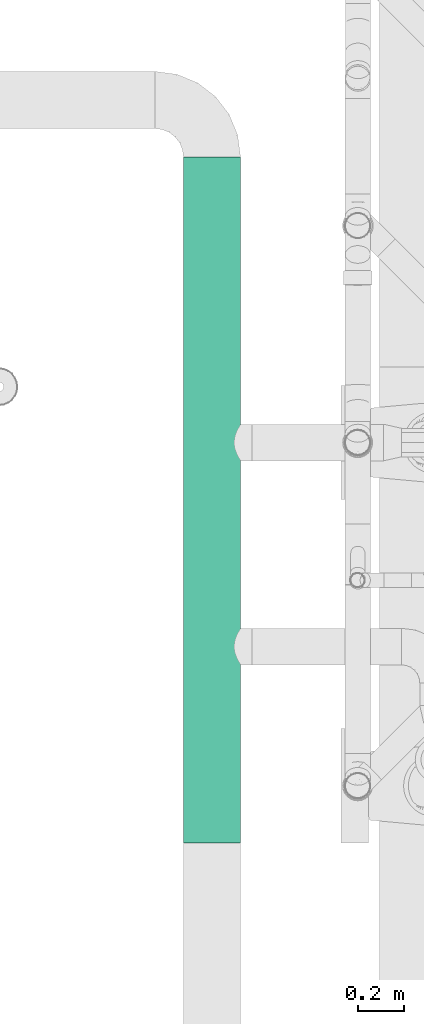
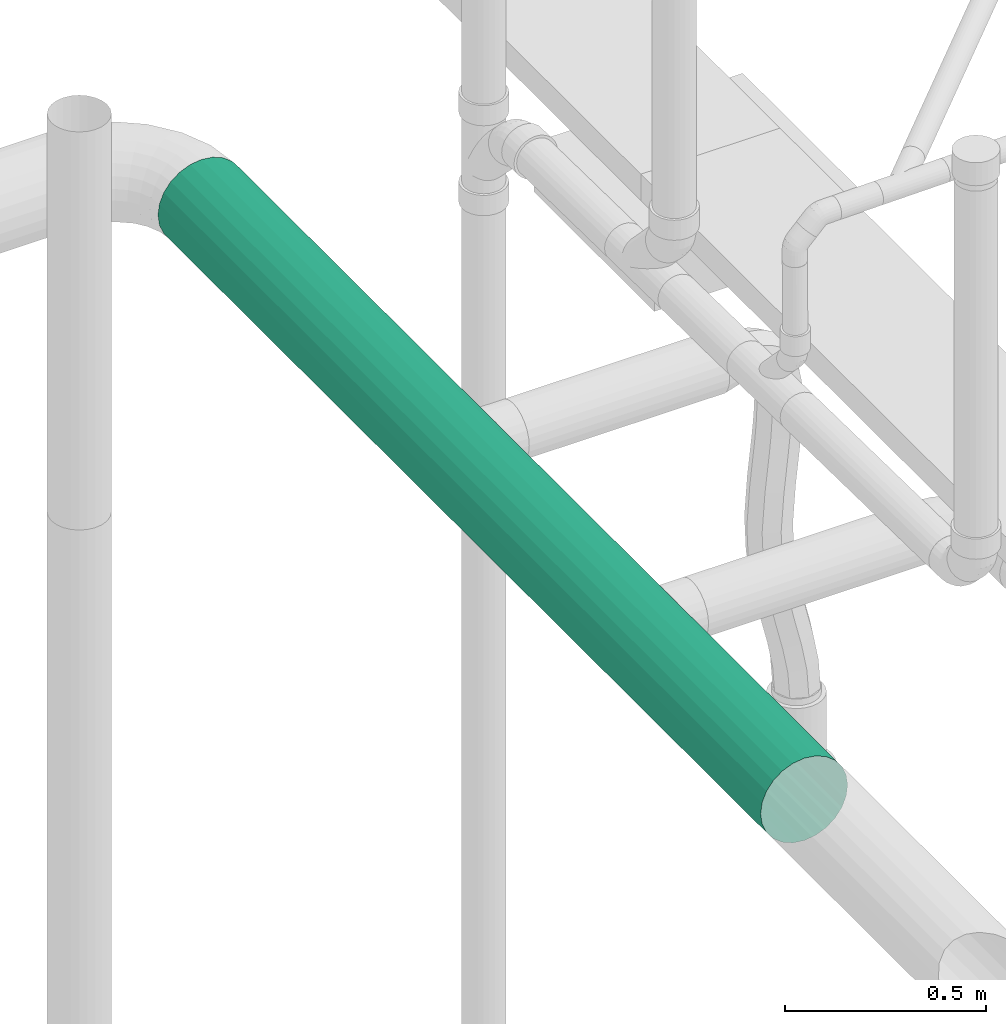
# One storey, part 11 of 374: 1 flow segment.
"""IFC2X3 building model written with IfcOpenShell, lengths in metres."""

from ifc_helpers import new_model, si_unit, direction, origin, place, context, subcontext, project, spatial, open_shell, surface_model, source, transform, mapped, element, save


model = new_model("IFC2X3")

# Units and contexts
model_context = context("Model", 3, precision=1e-05, world=origin(), true_north=direction((-0.4480736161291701, 0.8939966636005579)))
body_context = subcontext(model_context, "Body", "Model", "MODEL_VIEW")
ifc_project = project(units=[si_unit("LENGTHUNIT", "METRE"), si_unit("AREAUNIT", "SQUARE_METRE"), si_unit("VOLUMEUNIT", "CUBIC_METRE"), si_unit("PLANEANGLEUNIT", "RADIAN"), si_unit("THERMODYNAMICTEMPERATUREUNIT", "KELVIN"), si_unit("MASSUNIT", "GRAM", prefix="KILO"), si_unit("TIMEUNIT", "SECOND")], contexts=[model_context])

# Site, building, storey
site_placement = place(None, origin())
site = spatial("IfcSite", under=ifc_project, at=site_placement, Name="Site 1", CompositionType="ELEMENT")
building_placement = place(site_placement, origin())
building = spatial("IfcBuilding", under=site, at=building_placement, Name="Undefined", CompositionType="ELEMENT")
storey_placement = place(building_placement, origin())
storey = spatial("IfcBuildingStorey", under=building, at=storey_placement, Name="Rez de chauss\x8ee", CompositionType="ELEMENT", Elevation=0.0)

# Flow segment
shared_shape = source(origin(), body_context, "Body", "SurfaceModel", [
    surface_model("IfcFaceBasedSurfaceModel", [(0.0, 0.03263154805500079, 0.0), (0.0, 0.0, 0.0), (3.0, 0.0, 0.0), (3.0, 0.03263154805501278, -4.4408921e-16), (0.0, -0.031519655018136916, -0.008445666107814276), (3.0, -0.03151965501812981, -0.008445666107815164), (0.0, -0.05977940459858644, -0.024761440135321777), (3.0, -0.05977940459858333, -0.02476144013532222), (0.0, -0.08285339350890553, -0.047835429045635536), (3.0, -0.08285339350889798, -0.04783542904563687), (0.0, -0.09916916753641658, -0.07609517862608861), (3.0, -0.09916916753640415, -0.07609517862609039), (0.0, -0.1076148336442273, -0.10761483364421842), (3.0, -0.10761483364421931, -0.10761483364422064), (0.0, -0.1076148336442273, -0.14024638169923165), (3.0, -0.10761483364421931, -0.14024638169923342), (0.0, -0.09916916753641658, -0.17176603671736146), (3.0, -0.09916916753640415, -0.17176603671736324), (0.0, -0.08285339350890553, -0.2000257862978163), (3.0, -0.08285339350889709, -0.20002578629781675), (0.0, -0.059779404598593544, -0.22309977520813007), (3.0, -0.059779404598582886, -0.22309977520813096), (0.0, -0.03151965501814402, -0.23941554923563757), (3.0, -0.03151965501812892, -0.23941554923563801), (0.0, -1.4210854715e-14, -0.24786121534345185), (3.0, 8.8817842e-16, -0.24786121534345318), (0.0, 0.03263154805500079, -0.24786121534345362), (3.0, 0.032631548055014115, -0.24786121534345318), (0.0, 0.0641512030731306, -0.23941554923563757), (3.0, 0.06415120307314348, -0.23941554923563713), (0.0, 0.09241095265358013, -0.22309977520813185), (3.0, 0.092410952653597, -0.22309977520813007), (0.0, 0.11548494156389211, -0.2000257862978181), (3.0, 0.11548494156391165, -0.20002578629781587), (0.0, 0.13180071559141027, -0.171766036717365), (3.0, 0.13180071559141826, -0.1717660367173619), (0.0, 0.140246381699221, -0.1402463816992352), (3.0, 0.14024638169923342, -0.14024638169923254), (0.0, 0.140246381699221, -0.10761483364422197), (3.0, 0.14024638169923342, -0.10761483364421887), (0.0, 0.13180071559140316, -0.07609517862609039), (3.0, 0.13180071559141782, -0.07609517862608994), (0.0, 0.11548494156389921, -0.04783542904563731), (3.0, 0.11548494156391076, -0.047835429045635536), (0.0, 0.09241095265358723, -0.024761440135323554), (3.0, 0.09241095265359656, -0.024761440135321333), (0.0, 0.06415120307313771, -0.008445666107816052), (3.0, 0.06415120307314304, -0.008445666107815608)], [open_shell([[[0, 1, 2, 3]], [[1, 4, 5, 2]], [[4, 6, 7, 5]], [[6, 8, 9, 7]], [[8, 10, 11, 9]], [[10, 12, 13, 11]], [[12, 14, 15, 13]], [[14, 16, 17, 15]], [[16, 18, 19, 17]], [[18, 20, 21, 19]], [[20, 22, 23, 21]], [[22, 24, 25, 23]], [[24, 26, 27, 25]], [[26, 28, 29, 27]], [[28, 30, 31, 29]], [[30, 32, 33, 31]], [[32, 34, 35, 33]], [[34, 36, 37, 35]], [[36, 38, 39, 37]], [[38, 40, 41, 39]], [[40, 42, 43, 41]], [[42, 44, 45, 43]], [[44, 46, 47, 45]], [[46, 0, 3, 47]]])]),
])
flow_segment_placement = place(storey_placement, origin())
element("IfcFlowSegment", 1, at=flow_segment_placement, inside=storey, Name="Tube", ObjectType="Tube", context=body_context, shape_type="MappedRepresentation", body=[
    mapped(shared_shape, transform((56.403698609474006, 14.061144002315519, 3.920740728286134), x_axis=(0.0, -1.0, 0.0), y_axis=(0.9914448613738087, 0.0, 0.13052619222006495), z_axis=(-0.13052619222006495, 0.0, 0.9914448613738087))),
])

save(model, "model.ifc")
